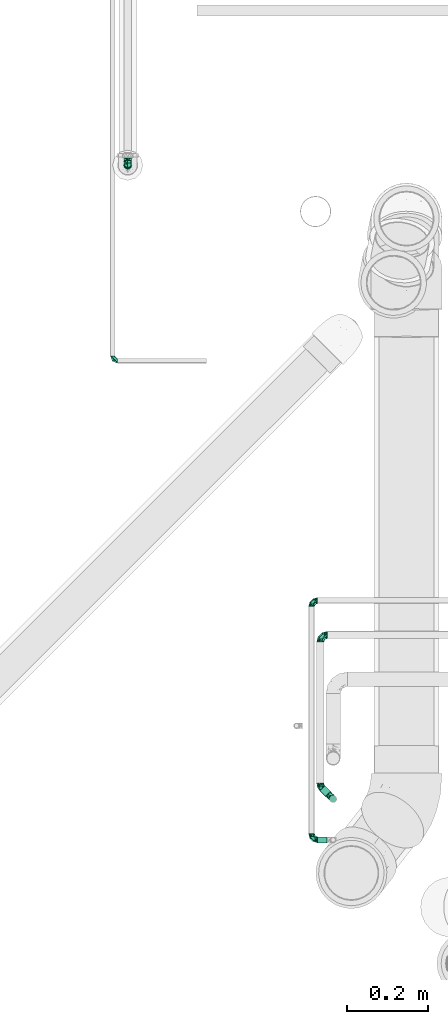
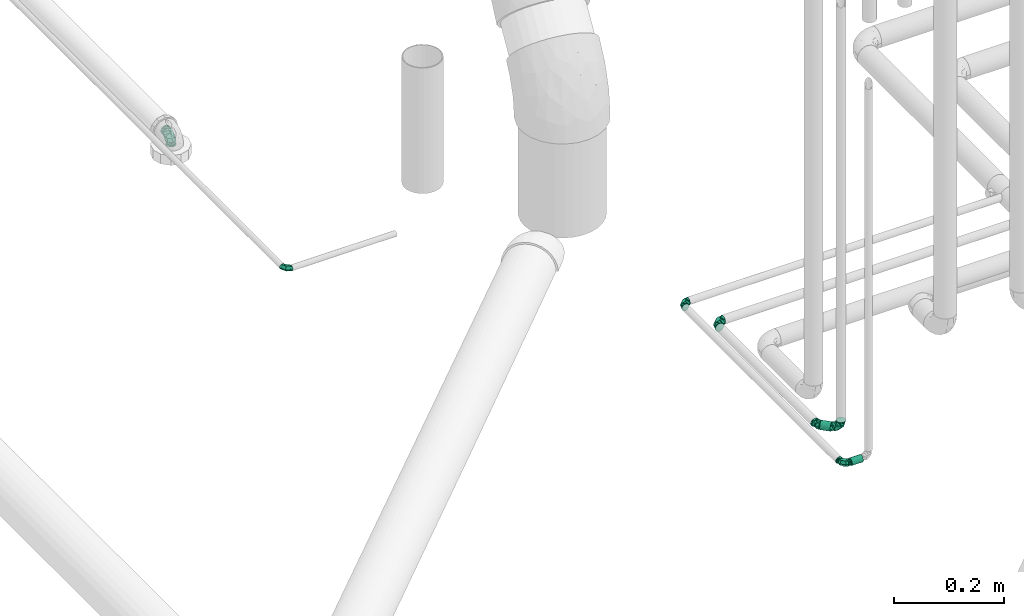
# One storey, part 87 of 156: 7 flow fittings, 2 flow segments.
"""IFC2X3 building model written with IfcOpenShell, lengths in millimetres."""

from ifc_helpers import new_model, entity, si_unit, converted_unit, derived_unit, direction, frame, origin_with_axes, origin_2d_with_axis, place, context, subcontext, project, spatial, hollow_circle, extrude, open_shell, surface_model, source, transform, mapped, type_object, element, save


model = new_model("IFC2X3")

# Units and contexts
model_context = context("Model", 3, precision=0.01, world=frame((0.0, 4.29681676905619e-09, 0.0)), true_north=direction((4.01073788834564e-13, 1.0)))
plan_context = context("Plan", 3, precision=0.01, world=frame((0.0, 4.29681676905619e-09, 0.0)), true_north=direction((4.01073788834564e-13, 1.0)))
body_context = subcontext(model_context, "Body", "Model", "MODEL_VIEW")
ifc_project = project(units=[converted_unit("PLANEANGLEUNIT", "DEGREE", entity("IfcPositiveLengthMeasure", 0.0174532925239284), si_unit("PLANEANGLEUNIT", "RADIAN"), dimensions=[0, 0, 0, 0, 0, 0, 0]), si_unit("AREAUNIT", "SQUARE_METRE"), si_unit("LENGTHUNIT", "METRE", prefix="MILLI"), si_unit("MASSUNIT", "GRAM", prefix="KILO"), si_unit("POWERUNIT", "WATT"), si_unit("PRESSUREUNIT", "PASCAL", prefix="KILO"), si_unit("FORCEUNIT", "NEWTON", prefix="KILO"), si_unit("ELECTRICVOLTAGEUNIT", "VOLT"), si_unit("ELECTRICCURRENTUNIT", "AMPERE"), si_unit("THERMODYNAMICTEMPERATUREUNIT", "DEGREE_CELSIUS"), si_unit("TIMEUNIT", "SECOND"), si_unit("VOLUMEUNIT", "CUBIC_METRE"), derived_unit("LINEARVELOCITYUNIT", [(si_unit("LENGTHUNIT", "METRE"), 1), (si_unit("TIMEUNIT", "SECOND"), -1)]), derived_unit("VOLUMETRICFLOWRATEUNIT", [(si_unit("VOLUMEUNIT", "CUBIC_METRE"), 1), (si_unit("TIMEUNIT", "SECOND"), -1)]), derived_unit("THERMALTRANSMITTANCEUNIT", [(si_unit("POWERUNIT", "WATT"), 1), (si_unit("THERMODYNAMICTEMPERATUREUNIT", "KELVIN"), -1), (si_unit("AREAUNIT", "SQUARE_METRE"), -1)]), derived_unit("SOUNDPRESSUREUNIT", [(si_unit("PRESSUREUNIT", "PASCAL"), 1)])], contexts=[model_context, plan_context])

# Site, building, storey
site_placement = place(None, frame((0.0, -4.29681676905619e-09, 0.0), z_axis=(0.0, 0.0, 1.0), x_axis=(1.0, 0.0, 0.0)))
site = spatial("IfcSite", under=ifc_project, at=site_placement, CompositionType="ELEMENT")
building_placement = place(site_placement, frame((0.0, 4.29681676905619e-09, 0.0), z_axis=(0.0, 0.0, 1.0), x_axis=(1.0, 0.0, 0.0)))
building = spatial("IfcBuilding", under=site, at=building_placement, Name="mc-building", CompositionType="ELEMENT")
storey_placement = place(building_placement, frame((0.0, 0.0, 205200.0), z_axis=(0.0, 0.0, 1.0), x_axis=(1.0, 0.0, 0.0)))
storey = spatial("IfcBuildingStorey", under=building, at=storey_placement, Name="Nivå D + 1,2 m", CompositionType="ELEMENT", Elevation=205200.0)

# Flow fittings
pipe_fitting_type = type_object("IfcPipeFittingType", Name="magi_pipe_elbow_short_001", PredefinedType="BEND")
shared_shape_1 = source(origin_with_axes(), body_context, "Body", "SurfaceModel", [
    surface_model("IfcShellBasedSurfaceModel", [(-12.0, 0.0, -6.0), (-12.0, -5.19615, -3.0), (-12.0, 1.55291, -5.79555), (-12.0, 5.79555, -1.55291), (-12.0, -5.79555, -1.55291), (-12.0, -6.0, 0.0), (-12.0, -1.55291, 5.79555), (-12.0, 0.0, 6.0), (-12.0, -3.0, 5.19615), (-12.0, 3.0, -5.19615), (-12.0, 5.19615, -3.0), (-12.0, 4.24264, -4.24264), (-12.0, -3.0, -5.19615), (-12.0, -4.24264, -4.24264), (-12.0, -1.55291, -5.79555), (-12.0, 6.0, 0.0), (-12.0, -4.24264, 4.24264), (-12.0, 5.79555, 1.55291), (-12.0, 5.19615, 3.0), (-12.0, 4.24264, 4.24264), (-12.0, 1.55291, 5.79555), (-12.0, 3.0, 5.19615), (-12.0, -5.79555, 1.55291), (-12.0, -5.19615, 3.0), (-1.55291, 12.0, -5.79555), (5.19615, 12.0, -3.0), (0.0, 12.0, -6.0), (-5.79555, 12.0, -1.55291), (-3.0, 12.0, -5.19615), (-4.24264, 12.0, -4.24264), (-5.19615, 12.0, -3.0), (-1.55291, 12.0, 5.79555), (1.55291, 12.0, -5.79555), (4.24264, 12.0, -4.24264), (3.0, 12.0, -5.19615), (6.0, 12.0, 0.0), (5.79555, 12.0, -1.55291), (4.24264, 12.0, 4.24264), (-5.19615, 12.0, 3.0), (-5.79555, 12.0, 1.55291), (-4.24264, 12.0, 4.24264), (-3.0, 12.0, 5.19615), (5.19615, 12.0, 3.0), (5.79555, 12.0, 1.55291), (3.0, 12.0, 5.19615), (0.0, 12.0, 6.0), (1.55291, 12.0, 5.79555), (-6.0, 12.0, 0.0), (-2.67965, 2.67964, 5.88263), (-6.5981, -3.76246, 0.0), (0.72792, -0.72792, 0.0), (3.76246, 6.5981, 0.0), (-7.75736, 7.75736, 0.0), (-2.67964, 2.67964, -5.88263)], [open_shell([[[0, 1, 2]], [[3, 2, 1]], [[4, 5, 1]], [[6, 7, 8]], [[9, 2, 3]], [[3, 10, 11]], [[9, 3, 11]], [[12, 13, 14]], [[1, 14, 13]], [[0, 14, 1]], [[1, 5, 3]], [[5, 15, 3]], [[16, 17, 5]], [[18, 17, 19]], [[20, 21, 19]], [[17, 20, 19]], [[20, 17, 8]], [[5, 22, 23]], [[5, 23, 16]], [[17, 16, 8]], [[20, 8, 7]], [[17, 15, 5]], [[24, 25, 26]], [[27, 24, 28]], [[29, 30, 27]], [[29, 27, 28]], [[31, 25, 24]], [[32, 33, 34]], [[33, 32, 25]], [[25, 35, 36]], [[25, 32, 26]], [[25, 37, 35]], [[38, 24, 27]], [[27, 39, 38]], [[24, 38, 31]], [[40, 41, 31]], [[40, 31, 38]], [[37, 25, 31]], [[35, 42, 43]], [[37, 42, 35]], [[44, 45, 46]], [[44, 37, 31]], [[45, 44, 31]], [[27, 47, 39]], [[6, 48, 7]], [[23, 22, 49]], [[16, 23, 49]], [[22, 5, 49]], [[50, 51, 48]], [[8, 49, 48]], [[20, 7, 48]], [[8, 48, 6]], [[42, 51, 43]], [[16, 49, 8]], [[18, 19, 38]], [[48, 19, 21]], [[17, 18, 52]], [[52, 15, 17]], [[52, 18, 38]], [[21, 20, 48]], [[49, 50, 48]], [[44, 46, 48]], [[51, 44, 48]], [[46, 45, 48]], [[35, 43, 51]], [[44, 51, 37]], [[37, 51, 42]], [[38, 39, 52]], [[47, 52, 39]], [[41, 40, 48]], [[40, 19, 48]], [[38, 19, 40]], [[31, 41, 48]], [[45, 31, 48]], [[9, 53, 2]], [[2, 53, 0]], [[52, 10, 3]], [[50, 49, 53]], [[11, 29, 53]], [[1, 49, 4]], [[11, 10, 29]], [[9, 11, 53]], [[49, 5, 4]], [[1, 13, 49]], [[14, 53, 12]], [[49, 13, 12]], [[12, 53, 49]], [[0, 53, 14]], [[3, 15, 52]], [[52, 47, 27]], [[52, 27, 30]], [[29, 10, 30]], [[32, 53, 26]], [[53, 28, 24]], [[36, 35, 51]], [[53, 29, 28]], [[26, 53, 24]], [[53, 34, 51]], [[51, 34, 33]], [[25, 36, 51]], [[51, 50, 53]], [[51, 33, 25]], [[34, 53, 32]], [[30, 10, 52]]])]),
])
flow_fitting_1_placement = place(storey_placement, frame((323586.90619, 464066.4497, 4196.25), z_axis=(0.0, 0.0, 1.0), x_axis=(0.0, -1.0, 0.0)))
element("IfcFlowFitting", 1, at=flow_fitting_1_placement, inside=storey, type_object=pipe_fitting_type, Name="magi_pipe_elbow_short_001", context=body_context, shape_type="MappedRepresentation", body=[
    mapped(shared_shape_1, transform((0.0, 0.0, 0.0), scale=1.0)),
])
shared_shape_2 = source(origin_with_axes(), body_context, "Body", "SurfaceModel", [
    surface_model("IfcShellBasedSurfaceModel", [(-15.0, 0.0, -7.5), (-15.0, -6.49519, -3.75), (-15.0, 1.94114, -7.24444), (-15.0, 3.75, -6.49519), (-15.0, 5.3033, -5.3033), (-15.0, 7.24444, -1.94114), (-15.0, 6.49519, -3.75), (-15.0, -5.3033, -5.3033), (-15.0, -3.75, -6.49519), (-15.0, -1.94114, -7.24444), (-15.0, -7.24444, -1.94114), (-15.0, -7.5, 0.0), (-15.0, -6.49519, 3.75), (-15.0, 7.24444, 1.94114), (-15.0, 6.49519, 3.75), (-15.0, 3.75, 6.49519), (-15.0, 1.94114, 7.24444), (-15.0, 5.3033, 5.3033), (-15.0, -5.3033, 5.3033), (-15.0, -7.24444, 1.94114), (-15.0, -1.94114, 7.24444), (-15.0, 0.0, 7.5), (-15.0, -3.75, 6.49519), (-15.0, 7.5, 0.0), (-1.94114, 15.0, -7.24444), (6.49519, 15.0, -3.75), (0.0, 15.0, -7.5), (-5.3033, 15.0, -5.3033), (-3.75, 15.0, -6.49519), (-6.49519, 15.0, -3.75), (-7.24444, 15.0, -1.94114), (3.75, 15.0, -6.49519), (5.3033, 15.0, -5.3033), (1.94114, 15.0, -7.24444), (7.5, 15.0, 0.0), (7.24444, 15.0, -1.94114), (-7.24444, 15.0, 1.94114), (6.49519, 15.0, 3.75), (-3.75, 15.0, 6.49519), (-6.49519, 15.0, 3.75), (-1.94114, 15.0, 7.24444), (-5.3033, 15.0, 5.3033), (5.3033, 15.0, 5.3033), (7.24444, 15.0, 1.94114), (3.75, 15.0, 6.49519), (0.0, 15.0, 7.5), (1.94114, 15.0, 7.24444), (-7.5, 15.0, 0.0), (-13.40845, -7.07355, 0.0), (-8.7589, -2.47707, 6.60232), (-8.6338, -5.79418, 0.0), (-3.75, -4.48557, 0.0), (0.36779, -0.36779, 0.0), (2.42668, 1.69111, 0.0), (-2.25176, 0.98822, 6.3797), (-1.69111, -2.42668, 0.0), (-11.8169, -6.64709, 0.0), (-5.9304, 5.9304, 7.17811), (-4.11647, 8.02676, 7.20749), (2.47708, 8.7589, 6.60232), (1.67739, 4.87408, 5.99192), (4.48557, 3.75, 0.0), (-4.78013, -1.73268, 5.91836), (7.07355, 13.40845, 0.0), (6.64709, 11.8169, 0.0), (-8.02675, 4.11647, 7.20749), (-8.59835, 12.34835, 0.0), (-12.34835, 8.59835, 0.0), (-9.6967, 9.6967, 0.0), (5.79418, 8.6338, 0.0), (-8.7589, -2.47707, -6.60232), (-4.11647, 8.02676, -7.20749), (0.71542, 3.43733, -5.99192), (-2.23993, 1.78364, -6.69976), (2.47708, 8.7589, -6.60232), (-11.39207, 6.08032, -5.22727), (-7.08629, 1.82323, -7.49084), (-8.19523, 6.76007, -6.13545)], [open_shell([[[0, 1, 2]], [[3, 2, 4]], [[5, 6, 4]], [[4, 2, 1]], [[5, 4, 1]], [[7, 1, 8]], [[9, 8, 1]], [[10, 11, 1]], [[0, 9, 1]], [[11, 12, 1]], [[12, 5, 1]], [[13, 5, 12]], [[14, 13, 15]], [[13, 16, 15]], [[17, 14, 15]], [[16, 13, 12]], [[12, 18, 16]], [[12, 11, 19]], [[20, 21, 22]], [[18, 22, 21]], [[16, 18, 21]], [[13, 23, 5]], [[24, 25, 26]], [[27, 24, 28]], [[27, 29, 30]], [[25, 24, 27]], [[25, 27, 30]], [[31, 25, 32]], [[25, 31, 33]], [[25, 34, 35]], [[25, 33, 26]], [[30, 34, 25]], [[30, 36, 34]], [[34, 36, 37]], [[38, 36, 39]], [[38, 40, 36]], [[38, 39, 41]], [[37, 36, 40]], [[40, 42, 37]], [[43, 34, 37]], [[44, 45, 46]], [[45, 44, 42]], [[45, 42, 40]], [[36, 30, 47]], [[19, 48, 12]], [[49, 50, 51]], [[52, 53, 54]], [[54, 55, 52]], [[22, 18, 56]], [[12, 56, 18]], [[57, 54, 58]], [[22, 50, 20]], [[21, 20, 50]], [[59, 60, 61]], [[59, 58, 60]], [[55, 54, 62]], [[21, 50, 49]], [[21, 49, 16]], [[62, 49, 51]], [[62, 51, 55]], [[37, 63, 43]], [[49, 15, 16]], [[64, 63, 37]], [[13, 65, 23]], [[14, 17, 49]], [[54, 65, 62]], [[15, 49, 17]], [[57, 58, 66]], [[67, 57, 68]], [[53, 60, 54]], [[46, 45, 69]], [[69, 44, 46]], [[41, 59, 38]], [[40, 59, 45]], [[42, 44, 64]], [[54, 60, 58]], [[64, 44, 69]], [[61, 60, 53]], [[43, 63, 34]], [[59, 61, 69]], [[58, 47, 66]], [[22, 56, 50]], [[54, 57, 65]], [[49, 65, 14]], [[36, 47, 58]], [[64, 37, 42]], [[39, 36, 58]], [[14, 65, 13]], [[41, 39, 59]], [[19, 11, 48]], [[39, 58, 59]], [[48, 56, 12]], [[38, 59, 40]], [[59, 69, 45]], [[49, 62, 65]], [[57, 67, 65]], [[66, 68, 57]], [[67, 23, 65]], [[70, 50, 0]], [[71, 72, 73]], [[74, 71, 29]], [[70, 2, 3]], [[70, 51, 50]], [[35, 34, 63]], [[75, 4, 6]], [[75, 5, 23]], [[6, 5, 75]], [[51, 76, 55]], [[75, 23, 67]], [[70, 4, 75]], [[48, 11, 10]], [[8, 56, 7]], [[0, 50, 9]], [[51, 70, 76]], [[56, 8, 50]], [[8, 9, 50]], [[70, 0, 2]], [[66, 47, 71]], [[52, 72, 53]], [[4, 70, 3]], [[70, 75, 76]], [[73, 52, 55]], [[71, 68, 66]], [[61, 53, 72]], [[31, 64, 69]], [[30, 71, 47]], [[27, 74, 29]], [[56, 1, 7]], [[28, 24, 74]], [[63, 64, 25]], [[56, 48, 1]], [[28, 74, 27]], [[1, 48, 10]], [[26, 74, 24]], [[33, 69, 26]], [[29, 71, 30]], [[32, 64, 31]], [[69, 33, 31]], [[68, 71, 77]], [[74, 26, 69]], [[25, 35, 63]], [[61, 72, 74]], [[61, 74, 69]], [[67, 77, 75]], [[74, 72, 71]], [[25, 64, 32]], [[76, 77, 73]], [[75, 77, 76]], [[77, 71, 73]], [[55, 76, 73]], [[72, 52, 73]], [[77, 67, 68]]])]),
])
for number, where, z_axis, x_axis, name in (
    (2, (324075.349, 462890.0, 4308.0), (0.0, 0.0, 1.0), (0.0, -1.0, 0.0), "magi_pipe_elbow_short_001"),
    (3, (324075.349, 463477.7375, 4308.0), (0.0, 0.0, 1.0), (-1.0, 0.0, 0.0), "magi_pipe_elbow_short_001"),
):
    element("IfcFlowFitting", number, at=place(storey_placement, frame(where, z_axis=z_axis, x_axis=x_axis)), inside=storey, type_object=pipe_fitting_type, Name=name, context=body_context, shape_type="MappedRepresentation", body=[
        mapped(shared_shape_2, transform((0.0, 0.0, 0.0), scale=1.0)),
    ])
shared_shape_3 = source(origin_with_axes(), body_context, "Body", "SurfaceModel", [
    surface_model("IfcShellBasedSurfaceModel", [(-18.0, 4.5, -7.79423), (-18.0, 2.32937, -8.69333), (-18.0, 0.0, -9.0), (-18.0, -6.36396, -6.36396), (-18.0, 8.69333, -2.32937), (-18.0, 7.79423, -4.5), (-18.0, 6.36396, -6.36396), (-18.0, -4.5, -7.79423), (-18.0, -2.32937, -8.69333), (-18.0, -7.79423, -4.5), (-18.0, -8.69333, -2.32937), (-18.0, -9.0, 0.0), (-18.0, 8.69333, 2.32937), (-18.0, -8.69333, 2.32937), (-18.0, 7.79423, 4.5), (-18.0, 6.36396, 6.36396), (-18.0, 2.32937, 8.69333), (-18.0, 4.5, 7.79423), (-18.0, -7.79423, 4.5), (-18.0, -6.36396, 6.36396), (-18.0, -4.5, 7.79423), (-18.0, -2.32937, 8.69333), (-18.0, 0.0, 9.0), (-18.0, 9.0, 0.0), (0.0, 18.0, -9.0), (-2.32937, 18.0, -8.69333), (-4.5, 18.0, -7.79423), (6.36396, 18.0, -6.36396), (-7.79423, 18.0, -4.5), (-8.69333, 18.0, -2.32937), (-6.36396, 18.0, -6.36396), (8.69333, 18.0, 2.32937), (9.0, 18.0, 0.0), (2.32937, 18.0, -8.69333), (4.5, 18.0, -7.79423), (8.69333, 18.0, -2.32937), (7.79423, 18.0, -4.5), (-8.69333, 18.0, 2.32937), (-6.36396, 18.0, 6.36396), (-7.79423, 18.0, 4.5), (-4.5, 18.0, 7.79423), (-2.32937, 18.0, 8.69333), (7.79423, 18.0, 4.5), (6.36396, 18.0, 6.36396), (2.32937, 18.0, 8.69333), (4.5, 18.0, 7.79423), (0.0, 18.0, 9.0), (-9.0, 18.0, 0.0), (-16.09014, -8.48825, 0.0), (-10.51068, -2.97249, 7.92278), (-10.36056, -6.95302, 0.0), (-4.5, -5.38269, 0.0), (0.44134, -0.44134, 0.0), (2.91201, 2.02933, 0.0), (-2.70211, 1.18586, 7.65564), (-2.02933, -2.91201, 0.0), (-14.18028, -7.97651, 0.0), (-7.11648, 7.11648, 8.61373), (-4.93977, 9.63211, 8.64898), (2.97249, 10.51068, 7.92278), (2.01286, 5.84889, 7.1903), (5.38269, 4.5, 0.0), (-5.73616, -2.07922, 7.10204), (8.48825, 16.09014, 0.0), (7.97651, 14.18028, 0.0), (-9.63211, 4.93977, 8.64898), (-10.31802, 14.81802, 0.0), (-14.81802, 10.31802, 0.0), (-11.63604, 11.63604, 0.0), (6.95302, 10.36056, 0.0), (-10.51068, -2.97249, -7.92278), (-4.93977, 9.63211, -8.64898), (0.8585, 4.1248, -7.1903), (-2.68792, 2.14037, -8.03971), (2.97249, 10.51068, -7.92278), (-13.67048, 7.29638, -6.27272), (-8.50355, 2.18787, -8.98901), (-9.83427, 8.11209, -7.36254)], [open_shell([[[0, 1, 2]], [[0, 2, 3]], [[0, 4, 5]], [[6, 0, 5]], [[4, 0, 3]], [[7, 3, 8]], [[3, 2, 8]], [[9, 10, 3]], [[11, 3, 10]], [[3, 11, 4]], [[11, 12, 4]], [[12, 11, 13]], [[14, 12, 15]], [[16, 17, 15]], [[13, 15, 12]], [[15, 18, 16]], [[18, 19, 16]], [[15, 13, 18]], [[20, 21, 19]], [[22, 19, 21]], [[16, 19, 22]], [[23, 4, 12]], [[24, 25, 26]], [[27, 24, 26]], [[28, 29, 26]], [[28, 26, 30]], [[31, 32, 26]], [[33, 27, 34]], [[33, 24, 27]], [[27, 35, 36]], [[35, 27, 32]], [[26, 32, 27]], [[26, 29, 37]], [[31, 26, 37]], [[38, 37, 39]], [[38, 40, 41]], [[37, 38, 31]], [[41, 42, 38]], [[41, 43, 42]], [[42, 31, 38]], [[43, 44, 45]], [[44, 43, 46]], [[46, 43, 41]], [[37, 29, 47]], [[13, 48, 18]], [[49, 50, 51]], [[52, 53, 54]], [[54, 55, 52]], [[20, 19, 56]], [[18, 56, 19]], [[57, 54, 58]], [[20, 50, 21]], [[22, 21, 50]], [[59, 60, 61]], [[59, 58, 60]], [[55, 54, 62]], [[22, 50, 49]], [[22, 49, 16]], [[62, 49, 51]], [[62, 51, 55]], [[42, 63, 31]], [[49, 17, 16]], [[64, 63, 42]], [[12, 65, 23]], [[14, 15, 49]], [[54, 65, 62]], [[17, 49, 15]], [[57, 58, 66]], [[67, 57, 68]], [[53, 60, 54]], [[44, 46, 69]], [[69, 45, 44]], [[38, 59, 40]], [[41, 59, 46]], [[43, 45, 64]], [[54, 60, 58]], [[64, 45, 69]], [[61, 60, 53]], [[31, 63, 32]], [[59, 61, 69]], [[58, 47, 66]], [[20, 56, 50]], [[54, 57, 65]], [[49, 65, 14]], [[37, 47, 58]], [[64, 42, 43]], [[39, 37, 58]], [[14, 65, 12]], [[38, 39, 59]], [[13, 11, 48]], [[39, 58, 59]], [[48, 56, 18]], [[40, 59, 41]], [[59, 69, 46]], [[49, 62, 65]], [[57, 67, 65]], [[66, 68, 57]], [[67, 23, 65]], [[70, 50, 2]], [[71, 72, 73]], [[74, 71, 28]], [[70, 1, 0]], [[70, 51, 50]], [[35, 32, 63]], [[75, 6, 5]], [[75, 4, 23]], [[5, 4, 75]], [[51, 76, 55]], [[75, 23, 67]], [[70, 6, 75]], [[48, 11, 10]], [[7, 56, 3]], [[2, 50, 8]], [[51, 70, 76]], [[56, 7, 50]], [[7, 8, 50]], [[70, 2, 1]], [[66, 47, 71]], [[52, 72, 53]], [[6, 70, 0]], [[70, 75, 76]], [[73, 52, 55]], [[71, 68, 66]], [[61, 53, 72]], [[34, 64, 69]], [[29, 71, 47]], [[30, 74, 28]], [[56, 9, 3]], [[26, 25, 74]], [[63, 64, 36]], [[56, 48, 9]], [[26, 74, 30]], [[9, 48, 10]], [[24, 74, 25]], [[33, 69, 24]], [[28, 71, 29]], [[27, 64, 34]], [[69, 33, 34]], [[68, 71, 77]], [[74, 24, 69]], [[36, 35, 63]], [[61, 72, 74]], [[61, 74, 69]], [[67, 77, 75]], [[74, 72, 71]], [[36, 64, 27]], [[76, 77, 73]], [[75, 77, 76]], [[77, 71, 73]], [[55, 76, 73]], [[72, 52, 73]], [[77, 67, 68]]])]),
])
for number, where, z_axis, x_axis, name in (
    (4, (324096.70519, 463393.4875, 4309.0), (0.0, 0.0, 1.0), (-1.0, 0.0, 0.0), "magi_pipe_elbow_short_001"),
    (5, (324128.525, 462990.0, 4309.0), (-0.707106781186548, -0.707106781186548, 0.0), (0.707106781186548, -0.707106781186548, 0.0), "magi_pipe_elbow_short_001"),
):
    element("IfcFlowFitting", number, at=place(storey_placement, frame(where, z_axis=z_axis, x_axis=x_axis)), inside=storey, type_object=pipe_fitting_type, Name=name, context=body_context, shape_type="MappedRepresentation", body=[
        mapped(shared_shape_3, transform((0.0, 0.0, 0.0), scale=1.0)),
    ])
shared_shape_4 = source(origin_with_axes(), body_context, "Body", "SurfaceModel", [
    surface_model("IfcShellBasedSurfaceModel", [(-7.45584, 4.5, -7.79423), (-7.45584, 2.32937, -8.69333), (-7.45584, 0.0, -9.0), (-7.45584, -6.36396, -6.36396), (-7.45584, 8.69333, -2.32937), (-7.45584, 7.79423, -4.5), (-7.45584, 6.36396, -6.36396), (-7.45584, -4.5, -7.79423), (-7.45584, -2.32937, -8.69333), (-7.45584, -7.79423, -4.5), (-7.45584, -8.69333, -2.32937), (-7.45584, -9.0, 0.0), (-7.45584, 8.69333, 2.32937), (-7.45584, -8.69333, 2.32937), (-7.45584, 7.79423, 4.5), (-7.45584, 6.36396, 6.36396), (-7.45584, 2.32937, 8.69333), (-7.45584, 4.5, 7.79423), (-7.45584, -7.79423, 4.5), (-7.45584, -6.36396, 6.36396), (-7.45584, -4.5, 7.79423), (-7.45584, -2.32937, 8.69333), (-7.45584, 0.0, 9.0), (-7.45584, 9.0, 0.0), (5.27208, 5.27208, -9.0), (3.62496, 6.91919, -8.69333), (2.0901, 8.45406, -7.79423), (9.77208, 0.77208, -6.36396), (-0.23927, 10.78343, -4.5), (-0.87504, 11.41919, -2.32937), (0.77208, 9.77208, -6.36396), (11.41919, -0.87504, -2.32937), (6.91919, 3.62496, -8.69333), (8.45406, 2.0901, -7.79423), (10.78343, -0.23927, -4.5), (11.41919, -0.87504, 2.32937), (11.63604, -1.09188, 0.0), (9.77208, 0.77208, 6.36396), (-0.87504, 11.41919, 2.32937), (0.77208, 9.77208, 6.36396), (-0.23927, 10.78343, 4.5), (2.0901, 8.45406, 7.79423), (3.62496, 6.91919, 8.69333), (10.78343, -0.23927, 4.5), (6.91919, 3.62496, 8.69333), (8.45406, 2.0901, 7.79423), (5.27208, 5.27208, 9.0), (-1.09188, 11.63604, 0.0), (-3.55786, -8.22464, 0.0), (-2.49647, -4.73929, 7.29293), (0.8774, 4.5905, 8.72391), (-0.68155, 0.58624, 8.97389), (-2.85416, 7.01633, 6.62539), (-5.50685, -8.61232, 0.0), (2.87661, -6.94475, 0.0), (-0.34063, -7.5847, 0.0), (4.91359, -2.18987, 6.9831), (5.60405, -5.12233, 0.0), (-4.01169, 9.68508, 0.0), (8.33149, -3.29991, 0.0), (9.98376, -2.1959, 0.0), (-0.73677, 5.37048, -8.2068), (4.81728, -2.45322, -6.83687), (-1.11341, -1.36817, -8.67955)], [open_shell([[[0, 1, 2]], [[0, 2, 3]], [[0, 4, 5]], [[6, 0, 5]], [[4, 0, 3]], [[7, 3, 8]], [[3, 2, 8]], [[9, 10, 3]], [[11, 3, 10]], [[3, 11, 4]], [[11, 12, 4]], [[12, 11, 13]], [[14, 12, 15]], [[16, 17, 15]], [[13, 15, 12]], [[15, 18, 16]], [[18, 19, 16]], [[15, 13, 18]], [[20, 21, 19]], [[22, 19, 21]], [[16, 19, 22]], [[23, 4, 12]], [[24, 25, 26]], [[27, 24, 26]], [[28, 29, 26]], [[28, 26, 30]], [[31, 26, 29]], [[32, 27, 33]], [[32, 24, 27]], [[27, 31, 34]], [[26, 31, 27]], [[31, 35, 36]], [[31, 29, 37]], [[29, 38, 39]], [[39, 38, 40]], [[39, 41, 42]], [[39, 37, 29]], [[37, 39, 42]], [[35, 37, 43]], [[31, 37, 35]], [[37, 44, 45]], [[44, 37, 46]], [[42, 46, 37]], [[38, 29, 47]], [[19, 48, 20]], [[18, 48, 19]], [[20, 48, 49]], [[40, 50, 39]], [[17, 49, 51]], [[49, 22, 21]], [[52, 50, 40]], [[13, 53, 18]], [[54, 49, 55]], [[54, 56, 51]], [[16, 49, 17]], [[14, 52, 12]], [[13, 11, 53]], [[56, 54, 57]], [[52, 14, 15]], [[58, 23, 12]], [[51, 52, 15]], [[53, 48, 18]], [[22, 49, 16]], [[20, 49, 21]], [[51, 49, 54]], [[46, 56, 44]], [[45, 44, 56]], [[12, 52, 58]], [[42, 56, 46]], [[59, 43, 37]], [[59, 37, 45]], [[35, 60, 36]], [[57, 59, 56]], [[49, 48, 55]], [[58, 52, 47]], [[38, 47, 52]], [[45, 56, 59]], [[52, 40, 38]], [[42, 41, 50]], [[59, 60, 43]], [[39, 50, 41]], [[43, 60, 35]], [[42, 50, 56]], [[50, 52, 51]], [[56, 50, 51]], [[51, 15, 17]], [[61, 62, 63]], [[29, 61, 58]], [[0, 63, 1]], [[1, 63, 2]], [[61, 4, 58]], [[9, 53, 10]], [[48, 8, 55]], [[48, 53, 9]], [[61, 5, 4]], [[26, 25, 61]], [[48, 7, 8]], [[6, 63, 0]], [[53, 11, 10]], [[9, 3, 48]], [[48, 3, 7]], [[63, 54, 55]], [[63, 8, 2]], [[4, 23, 58]], [[58, 47, 29]], [[54, 63, 62]], [[29, 28, 61]], [[30, 26, 61]], [[31, 36, 60]], [[25, 24, 62]], [[60, 59, 34]], [[63, 6, 5]], [[25, 62, 61]], [[63, 55, 8]], [[32, 62, 24]], [[59, 62, 33]], [[5, 61, 63]], [[57, 54, 62]], [[59, 33, 27]], [[31, 60, 34]], [[62, 59, 57]], [[59, 27, 34]], [[33, 62, 32]], [[61, 28, 30]]])]),
])
flow_fitting_2_placement = place(storey_placement, frame((324096.70519, 463021.81981, 4309.0), z_axis=(0.0, 0.0, 1.0), x_axis=(0.0, -1.0, 0.0)))
element("IfcFlowFitting", 6, at=flow_fitting_2_placement, inside=storey, type_object=pipe_fitting_type, Name="magi_pipe_elbow_short_001", context=body_context, shape_type="MappedRepresentation", body=[
    mapped(shared_shape_4, transform((0.0, 0.0, 0.0), scale=1.0)),
])
shared_shape_5 = source(origin_with_axes(), body_context, "Body", "SurfaceModel", [
    surface_model("IfcShellBasedSurfaceModel", [(-20.0, 2.58819, -9.65926), (-20.0, 0.0, -10.0), (-20.0, 7.07107, -7.07107), (-20.0, 5.0, -8.66025), (-20.0, 8.66025, -5.0), (-20.0, 10.0, 0.0), (-20.0, -7.07107, -7.07107), (-20.0, 8.66025, 5.0), (-20.0, -5.0, -8.66025), (-20.0, -2.58819, -9.65926), (-20.0, -9.65926, -2.58819), (-20.0, -10.0, 0.0), (-20.0, -8.66025, -5.0), (-20.0, 9.65926, -2.58819), (-20.0, 9.65926, 2.58819), (-20.0, -7.07107, 7.07107), (-20.0, 2.58819, 9.65926), (-20.0, 5.0, 8.66025), (-20.0, 7.07107, 7.07107), (-20.0, -9.65926, 2.58819), (-20.0, -8.66025, 5.0), (-20.0, -5.0, 8.66025), (-20.0, -2.58819, 9.65926), (-20.0, 0.0, 10.0), (-7.07107, 20.0, -7.07107), (0.0, 20.0, -10.0), (-2.58819, 20.0, -9.65926), (-5.0, 20.0, -8.66025), (-8.66025, 20.0, -5.0), (-9.65926, 20.0, -2.58819), (7.07107, 20.0, -7.07107), (7.07107, 20.0, 7.07107), (10.0, 20.0, 0.0), (2.58819, 20.0, -9.65926), (5.0, 20.0, -8.66025), (8.66025, 20.0, -5.0), (9.65926, 20.0, -2.58819), (-10.0, 20.0, 0.0), (-9.65926, 20.0, 2.58819), (-8.66025, 20.0, 5.0), (-5.0, 20.0, 8.66025), (-2.58819, 20.0, 9.65926), (-7.07107, 20.0, 7.07107), (8.66025, 20.0, 5.0), (9.65926, 20.0, 2.58819), (2.58819, 20.0, 9.65926), (5.0, 20.0, 8.66025), (0.0, 20.0, 10.0), (-17.87793, -9.43139, 0.0), (-11.67854, -3.30277, 8.80309), (-11.51174, -7.72558, 0.0), (-5.0, -5.98076, 0.0), (0.49038, -0.49038, 0.0), (3.23557, 2.25481, 0.0), (-3.00235, 1.31763, 8.50627), (-2.25481, -3.23557, 0.0), (-15.75587, -8.86279, 0.0), (-7.9072, 7.9072, 9.57081), (-5.48863, 10.70234, 9.60998), (3.30277, 11.67854, 8.80309), (2.23652, 6.49877, 7.98923), (5.98076, 5.0, 0.0), (-6.37351, -2.31024, 7.89115), (9.43139, 17.87793, 0.0), (8.86279, 15.75587, 0.0), (-10.70234, 5.48863, 9.60998), (-11.46447, 16.46447, 0.0), (-16.46447, 11.46447, 0.0), (-12.92893, 12.92893, 0.0), (7.72558, 11.51174, 0.0), (-11.67854, -3.30277, -8.80309), (-5.48863, 10.70234, -9.60998), (0.95389, 4.58311, -7.98923), (-2.98658, 2.37818, -8.93301), (3.30277, 11.67854, -8.80309), (-15.18942, 8.10709, -6.96969), (-9.44839, 2.43097, -9.98779), (-10.92697, 9.01343, -8.1806)], [open_shell([[[0, 1, 2]], [[3, 0, 2]], [[4, 2, 5]], [[6, 2, 1]], [[6, 7, 2]], [[8, 6, 9]], [[6, 1, 9]], [[10, 11, 12]], [[6, 12, 11]], [[11, 7, 6]], [[13, 4, 5]], [[7, 14, 5]], [[11, 15, 7]], [[7, 16, 17]], [[18, 7, 17]], [[16, 7, 15]], [[11, 19, 20]], [[11, 20, 15]], [[21, 22, 15]], [[22, 16, 15]], [[16, 22, 23]], [[7, 5, 2]], [[24, 25, 26]], [[24, 26, 27]], [[24, 28, 29]], [[25, 24, 30]], [[31, 32, 24]], [[33, 30, 34]], [[33, 25, 30]], [[35, 32, 36]], [[32, 35, 30]], [[24, 32, 30]], [[24, 29, 31]], [[37, 38, 39]], [[29, 39, 31]], [[40, 41, 39]], [[40, 39, 42]], [[31, 39, 41]], [[32, 43, 44]], [[31, 43, 32]], [[31, 45, 46]], [[31, 41, 45]], [[47, 45, 41]], [[29, 37, 39]], [[19, 48, 20]], [[49, 50, 51]], [[52, 53, 54]], [[54, 55, 52]], [[21, 15, 56]], [[20, 56, 15]], [[57, 54, 58]], [[21, 50, 22]], [[23, 22, 50]], [[59, 60, 61]], [[59, 58, 60]], [[55, 54, 62]], [[23, 50, 49]], [[23, 49, 16]], [[62, 49, 51]], [[62, 51, 55]], [[43, 63, 44]], [[49, 17, 16]], [[64, 63, 43]], [[14, 65, 5]], [[7, 18, 49]], [[54, 65, 62]], [[17, 49, 18]], [[58, 37, 66]], [[67, 57, 68]], [[53, 60, 54]], [[45, 47, 69]], [[69, 46, 45]], [[42, 59, 40]], [[41, 59, 47]], [[31, 46, 64]], [[68, 57, 66]], [[64, 46, 69]], [[61, 60, 53]], [[44, 63, 32]], [[59, 61, 69]], [[37, 58, 38]], [[21, 56, 50]], [[54, 57, 65]], [[49, 65, 7]], [[66, 57, 58]], [[64, 43, 31]], [[39, 38, 58]], [[7, 65, 14]], [[42, 39, 59]], [[19, 11, 48]], [[39, 58, 59]], [[48, 56, 20]], [[40, 59, 41]], [[59, 69, 47]], [[49, 62, 65]], [[57, 67, 65]], [[54, 60, 58]], [[67, 5, 65]], [[70, 50, 1]], [[71, 72, 73]], [[74, 71, 28]], [[70, 0, 3]], [[70, 51, 50]], [[36, 32, 63]], [[75, 2, 4]], [[75, 13, 5]], [[4, 13, 75]], [[51, 76, 55]], [[75, 5, 67]], [[70, 2, 75]], [[48, 11, 10]], [[8, 56, 6]], [[1, 50, 9]], [[51, 70, 76]], [[56, 8, 50]], [[8, 9, 50]], [[70, 1, 0]], [[66, 37, 71]], [[52, 72, 53]], [[2, 70, 3]], [[70, 75, 76]], [[73, 52, 55]], [[71, 68, 66]], [[61, 53, 72]], [[34, 64, 69]], [[29, 71, 37]], [[24, 74, 28]], [[56, 12, 6]], [[27, 26, 74]], [[63, 64, 35]], [[56, 48, 12]], [[27, 74, 24]], [[12, 48, 10]], [[25, 74, 26]], [[33, 69, 25]], [[28, 71, 29]], [[30, 64, 34]], [[69, 33, 34]], [[68, 71, 77]], [[74, 25, 69]], [[35, 36, 63]], [[61, 72, 74]], [[61, 74, 69]], [[67, 77, 75]], [[74, 72, 71]], [[35, 64, 30]], [[76, 77, 73]], [[75, 77, 76]], [[77, 71, 73]], [[55, 76, 73]], [[72, 52, 73]], [[77, 67, 68]]])]),
])
flow_fitting_3_placement = place(storey_placement, frame((323623.87367, 464546.93316, 4190.50902999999), z_axis=(1.0, 0.0, 0.0), x_axis=(0.0, -1.0, 0.0)))
element("IfcFlowFitting", 7, at=flow_fitting_3_placement, inside=storey, type_object=pipe_fitting_type, Name="magi_pipe_elbow_short_001", context=body_context, shape_type="MappedRepresentation", body=[
    mapped(shared_shape_5, transform((0.0, 0.0, 0.0), scale=1.0)),
])

# Flow segments
pipe_segment_type = type_object("IfcPipeSegmentType", Name="Kobberrør", PredefinedType="RIGIDSEGMENT")
shared_shape_6 = source(origin_with_axes(), body_context, "Body", "SweptSolid", [
    extrude(hollow_circle(Radius=9.0, WallThickness=2.0, at=origin_2d_with_axis()), frame((0.0, 0.0, 0.0), z_axis=(1.0, 0.0, 0.0), x_axis=(0.0, 1.0, 0.0)), (0.0, 0.0, 1.0), 19.5),
])
flow_segment_1_placement = place(storey_placement, frame((324115.79708, 463002.72792, 4309.0), z_axis=(0.0, 0.0, 1.0), x_axis=(-0.707106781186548, 0.707106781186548, 0.0)))
element("IfcFlowSegment", 8, at=flow_segment_1_placement, inside=storey, type_object=pipe_segment_type, Name="Kobberrør", context=body_context, shape_type="MappedRepresentation", body=[
    mapped(shared_shape_6, transform((0.0, 0.0, 0.0), scale=1.0)),
])
shared_shape_7 = source(origin_with_axes(), body_context, "Body", "SweptSolid", [
    extrude(hollow_circle(Radius=7.5, WallThickness=2.0, at=origin_2d_with_axis()), frame((0.0, 0.0, 0.0), z_axis=(1.0, 0.0, 0.0), x_axis=(0.0, 1.0, 0.0)), (0.0, 0.0, 1.0), 23.2),
])
flow_segment_2_placement = place(storey_placement, frame((324113.525, 462890.0, 4308.0), z_axis=(0.0, 0.0, 1.0), x_axis=(-1.0, 0.0, 0.0)))
element("IfcFlowSegment", 9, at=flow_segment_2_placement, inside=storey, type_object=pipe_segment_type, Name="Kobberrør", context=body_context, shape_type="MappedRepresentation", body=[
    mapped(shared_shape_7, transform((0.0, 0.0, 0.0), scale=1.0)),
])

save(model, "model.ifc")
